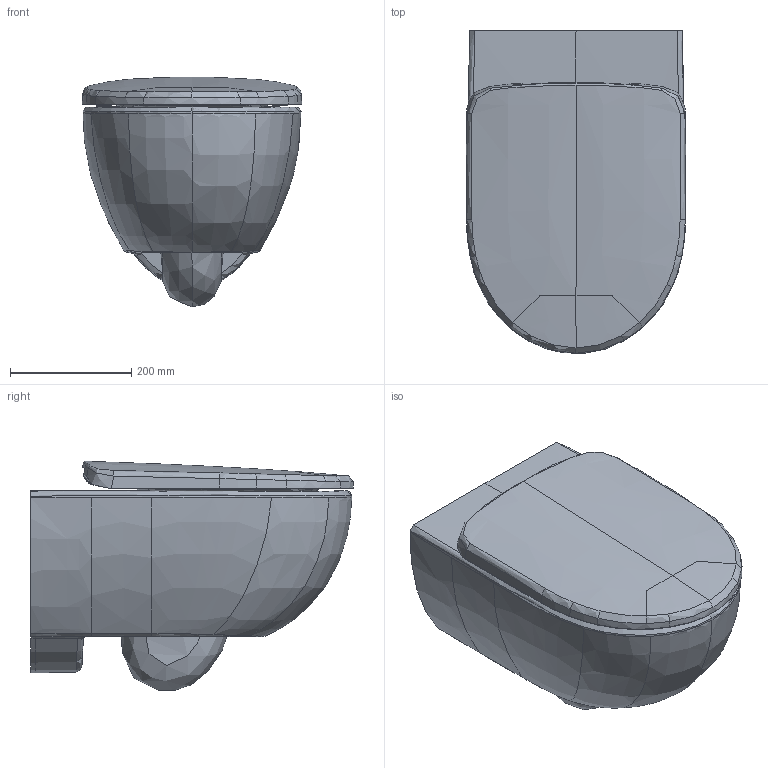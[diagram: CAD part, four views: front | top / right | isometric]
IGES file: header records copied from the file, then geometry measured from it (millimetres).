
Global section: file name: 502793; native system: Autodesk Inventor 2021; preprocessor: unknown; author: JANAN; date: 20221216.115453; units: millimetre
Bounding box: 362.44 x 532.43 x 378.88 mm (x, y, z)
Volume: 27041780.4 mm3; surface area: 1358888.1 mm2
Topology: 3 solids, 3 shells, 716 faces, 1759 edges, 1025 vertices
Faces by surface type: bspline 716
